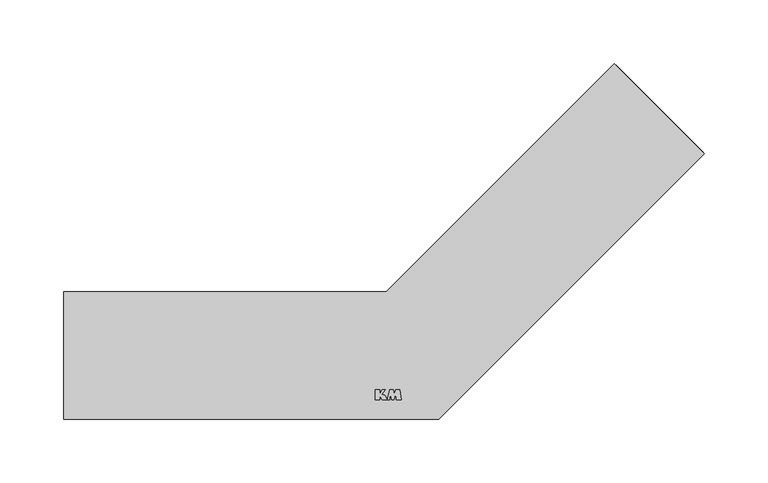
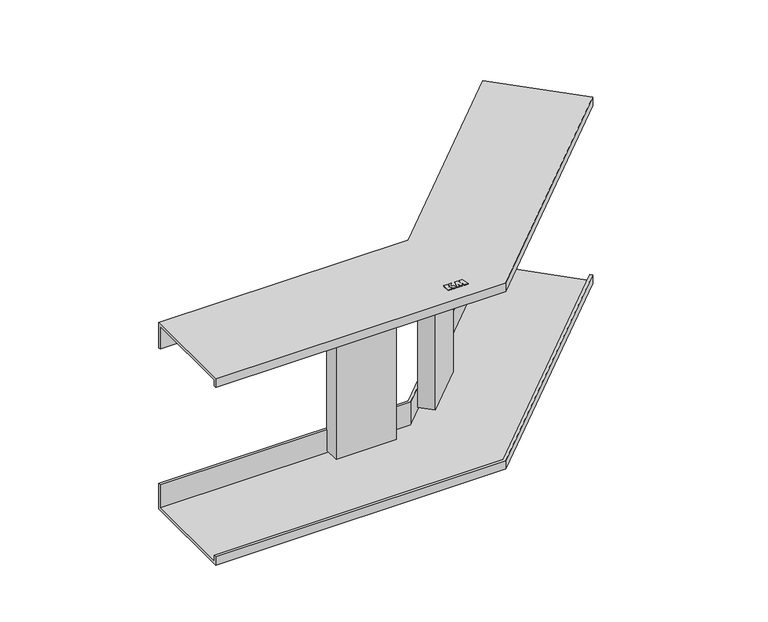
"""IFC4 building model written with IfcOpenShell, lengths in millimetres: cable carrier fitting geometry, КМ Профиль L Угол вертикальный внешний «Быстрый монтаж» : Угол вертикальный внешний «Быстрый монтаж»."""

from ifc_helpers import new_model, si_unit, frame, origin, place, context, project, spatial, polyline, outline, extrude, faceted_brep, source, transform, mapped, element, save


def cable_carrier_fitting_980f6524(model_context):
    return source(origin(), model_context, "Body", "SolidModel", [
        extrude(outline(polyline([(-29.2388781, -26.986157), (-25.7316192, -26.986157), (-25.7316192, -30.564509), (-23.8289757, -26.986157), (-21.703011, -26.986157), (-24.1694955, -30.5086619), (-21.9277444, -31.194034), (-20.0604353, -34.737421), (-23.9588467, -34.737421), (-25.6630512, -31.5720802), (-25.6630512, -34.737421), (-29.2388781, -34.737421), (-29.2388781, -26.986157)])), frame((0.0, 0.0, 100.0), z_axis=(0.0, 0.0, 1.0), x_axis=(1.0, 0.0, 0.0)), (0.0, 0.0, 1.0), 0.8),
        extrude(outline(polyline([(-17.9962759, -34.737421), (-19.8943395, -34.737421), (-18.0740589, -26.9647569), (-15.0433304, -26.9647569), (-14.2768297, -30.0390232), (-13.2555223, -26.9623682), (-10.0615674, -26.9623682), (-8.8700699, -34.7429915), (-12.7725105, -34.7429915), (-13.2500032, -30.0541919), (-14.7300717, -34.7434681), (-16.2045824, -34.7434681), (-17.6126012, -30.0696135), (-17.9962759, -34.737421)])), frame((0.0, 0.0, 100.0), z_axis=(0.0, 0.0, 1.0), x_axis=(1.0, 0.0, 0.0)), (0.0, 0.0, 1.0), 0.8),
        extrude(outline(polyline([(-43.7893219, 47.5), (-43.7893219, 31.5), (-104.7893219, 31.5), (-104.7893219, 47.5), (-43.7893219, 47.5)])), frame((0.0, 0.0, -95.0), z_axis=(0.0, 0.0, 1.0), x_axis=(1.0, 0.0, 0.0)), (0.0, 0.0, 1.0), 190.0),
        extrude(outline(polyline([(40.509668, 107.6848122), (51.8233765, 96.3711037), (8.6898628, 53.2375901), (-2.6238457, 64.5512986), (40.509668, 107.6848122)])), frame((0.0, 0.0, -95.0), z_axis=(0.0, 0.0, 1.0), x_axis=(1.0, 0.0, 0.0)), (0.0, 0.0, 1.0), 190.0),
        faceted_brep([(-274.2893219, 50.0, 73.0), (-274.2893219, 47.5, 73.0), (-274.2893219, 47.5, 97.5), (-274.2893219, -47.5, 97.5), (-274.2893219, -47.5, 91.0), (-274.2893219, -50.0, 91.0), (-274.2893219, -50.0, 100.0), (-274.2893219, 50.0, 100.0), (-20.7106781, 50.0, 73.0), (158.5965005, 229.3071786, 73.0), (160.3642674, 227.5394116, 73.0), (-19.6751442, 47.5, 73.0), (-19.6751442, 47.5, 97.5), (160.3642674, 227.5394116, 97.5), (227.5394116, 160.3642674, 97.5), (19.6751442, -47.5, 97.5), (19.6751442, -47.5, 91.0), (227.5394116, 160.3642674, 91.0), (229.3071786, 158.5965005, 91.0), (20.7106781, -50.0, 91.0), (20.7106781, -50.0, 100.0), (229.3071786, 158.5965005, 100.0), (158.5965005, 229.3071786, 100.0), (-20.7106781, 50.0, 100.0)], [[[0, 1, 2, 3, 4, 5, 6, 7]], [[1, 0, 8, 9, 10, 11]], [[2, 1, 11, 12]], [[3, 2, 12, 13, 14, 15]], [[4, 3, 15, 16]], [[5, 4, 16, 17, 18, 19]], [[6, 5, 19, 20]], [[7, 6, 20, 21, 22, 23]], [[0, 7, 23, 8]], [[9, 22, 21, 18, 17, 14, 13, 10]], [[12, 11, 10, 13]], [[16, 15, 14, 17]], [[20, 19, 18, 21]], [[8, 23, 22, 9]]]),
        faceted_brep([(-274.2893219, 50.0, -73.0), (-274.2893219, 50.0, -100.0), (-274.2893219, -50.0, -100.0), (-274.2893219, -50.0, -91.0), (-274.2893219, -47.5, -91.0), (-274.2893219, -47.5, -97.5), (-274.2893219, 47.5, -97.5), (-274.2893219, 47.5, -73.0), (-20.7106781, 50.0, -73.0), (-20.7106781, 50.0, -100.0), (158.5965005, 229.3071786, -100.0), (229.3071786, 158.5965005, -100.0), (20.7106781, -50.0, -100.0), (20.7106781, -50.0, -91.0), (229.3071786, 158.5965005, -91.0), (227.5394116, 160.3642674, -91.0), (19.6751442, -47.5, -91.0), (19.6751442, -47.5, -97.5), (227.5394116, 160.3642674, -97.5), (160.3642674, 227.5394116, -97.5), (-19.6751442, 47.5, -97.5), (-19.6751442, 47.5, -73.0), (160.3642674, 227.5394116, -73.0), (158.5965005, 229.3071786, -73.0)], [[[0, 1, 2, 3, 4, 5, 6, 7]], [[1, 0, 8, 9]], [[2, 1, 9, 10, 11, 12]], [[3, 2, 12, 13]], [[4, 3, 13, 14, 15, 16]], [[5, 4, 16, 17]], [[6, 5, 17, 18, 19, 20]], [[7, 6, 20, 21]], [[0, 7, 21, 22, 23, 8]], [[23, 22, 19, 18, 15, 14, 11, 10]], [[9, 8, 23, 10]], [[13, 12, 11, 14]], [[17, 16, 15, 18]], [[21, 20, 19, 22]]]),
    ])


if __name__ == "__main__":
    model = new_model("IFC4")
    model_context = context("Model", 3, world=origin())
    ifc_project = project(units=[si_unit("LENGTHUNIT", "METRE", prefix="MILLI")], contexts=[model_context])
    site = spatial("IfcSite", under=ifc_project)
    building = spatial("IfcBuilding", under=site)
    placement = place(None, origin())
    cable_carrier_fitting_shape = cable_carrier_fitting_980f6524(model_context)
    element("IfcCableCarrierFitting", 1, ObjectType="КМ Профиль L Угол вертикальный внешний «Быстрый монтаж» : Угол вертикальный внешний «Быстрый монтаж»", at=placement, inside=building, context=model_context, shape_type="MappedRepresentation", body=[
        mapped(cable_carrier_fitting_shape, transform((0.0, 0.0, 0.0), x_axis=(1.0, 0.0, 0.0), y_axis=(0.0, 1.0, 0.0), z_axis=(0.0, 0.0, 1.0))),
    ])
    save(model, "model.ifc")
